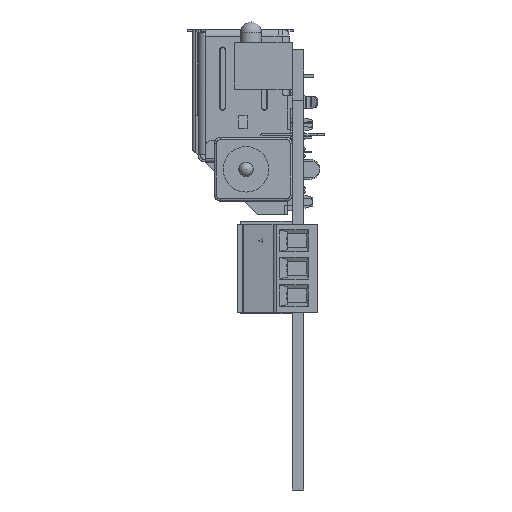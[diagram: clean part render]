
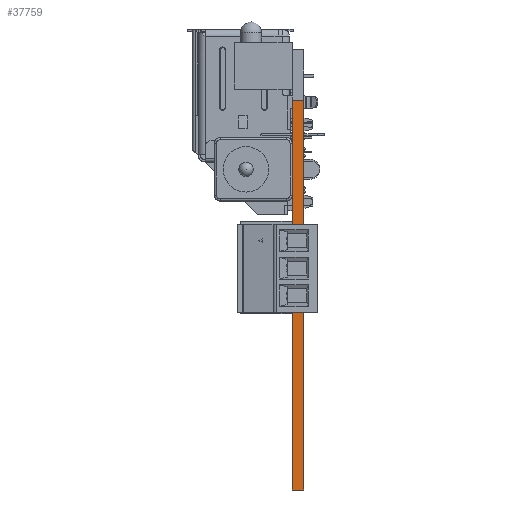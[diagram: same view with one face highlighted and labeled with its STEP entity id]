
A CAD part, left-side view. The second image highlights one B-rep face of the part: STEP entity #37759.
In plain terms, the highlighted planar face has unit normal (-1, 0, 0).
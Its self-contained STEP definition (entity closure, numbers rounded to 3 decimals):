
#889=PLANE('',#40292);
#2701=FACE_OUTER_BOUND('',#5025,.T.);
#5025=EDGE_LOOP('',(#27059,#27060,#27061,#27062));
#7385=LINE('',#54846,#11678);
#7476=LINE('',#55366,#11769);
#7482=LINE('',#55377,#11775);
#7484=LINE('',#55380,#11777);
#11678=VECTOR('',#43748,1000.);
#11769=VECTOR('',#44351,1000.);
#11775=VECTOR('',#44359,1000.);
#11777=VECTOR('',#44363,1000.);
#16960=VERTEX_POINT('',#54844);
#16961=VERTEX_POINT('',#54845);
#17133=VERTEX_POINT('',#55364);
#17134=VERTEX_POINT('',#55365);
#20680=EDGE_CURVE('',#16960,#16961,#7385,.T.);
#20938=EDGE_CURVE('',#17133,#17134,#7476,.T.);
#20944=EDGE_CURVE('',#17134,#16960,#7482,.T.);
#20946=EDGE_CURVE('',#16961,#17133,#7484,.T.);
#27059=ORIENTED_EDGE('',*,*,#20938,.T.);
#27060=ORIENTED_EDGE('',*,*,#20944,.T.);
#27061=ORIENTED_EDGE('',*,*,#20680,.T.);
#27062=ORIENTED_EDGE('',*,*,#20946,.T.);
#37759=ADVANCED_FACE('',(#2701),#889,.T.);
#40292=AXIS2_PLACEMENT_3D('',#55379,#44361,#44362);
#43748=DIRECTION('',(0.,0.,1.));
#44351=DIRECTION('',(0.,0.,-1.));
#44359=DIRECTION('',(0.,-1.,0.));
#44361=DIRECTION('center_axis',(-1.,0.,0.));
#44362=DIRECTION('ref_axis',(0.,0.,-1.));
#44363=DIRECTION('',(0.,1.,0.));
#54844=CARTESIAN_POINT('',(-66.85,-6.8,-24.05));
#54845=CARTESIAN_POINT('',(-66.85,-6.8,29.95));
#54846=CARTESIAN_POINT('',(-66.85,-6.8,31.03));
#55364=CARTESIAN_POINT('',(-66.85,-5.2,29.95));
#55365=CARTESIAN_POINT('',(-66.85,-5.2,-24.05));
#55366=CARTESIAN_POINT('',(-66.85,-5.2,31.03));
#55377=CARTESIAN_POINT('',(-66.85,-6.,-24.05));
#55379=CARTESIAN_POINT('Origin',(-66.85,-5.025,31.03));
#55380=CARTESIAN_POINT('',(-66.85,-6.,29.95));
